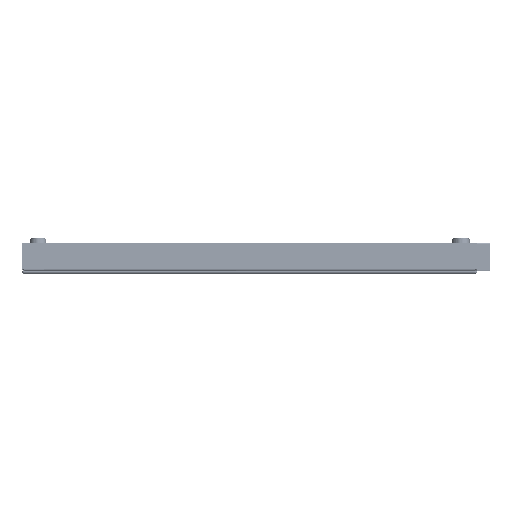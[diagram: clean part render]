
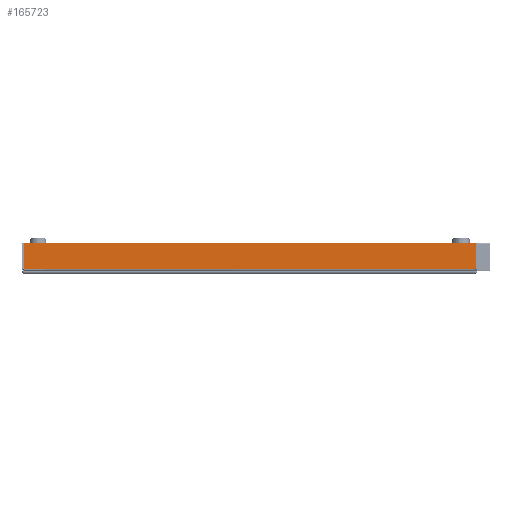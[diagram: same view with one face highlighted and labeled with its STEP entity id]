
A CAD part, left-side view. The second image highlights one B-rep face of the part: STEP entity #165723.
In plain terms, the highlighted planar face has unit normal (-1, 0, 0).
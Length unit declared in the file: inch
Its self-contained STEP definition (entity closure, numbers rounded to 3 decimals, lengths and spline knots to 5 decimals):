
#44864 = LINE ( 'NONE', #280374, #306609 ) ;
#92025 = DIRECTION ( 'NONE',  ( 0., 1., 0. ) ) ;
#152768 = EDGE_CURVE ( 'NONE', #467378, #166174, #44864, .T. ) ;
#165723 = ADVANCED_FACE ( 'NONE', ( #579345 ), #293257, .F. ) ;
#166174 = VERTEX_POINT ( 'NONE', #248034 ) ;
#189611 = DIRECTION ( 'NONE',  ( 0., -1., 0. ) ) ;
#200630 = ORIENTED_EDGE ( 'NONE', *, *, #152768, .F. ) ;
#221428 = CARTESIAN_POINT ( 'NONE',  ( -24., -23.80493, 0.263 ) ) ;
#225748 = VECTOR ( 'NONE', #340888, 39.37008 ) ;
#245222 = VERTEX_POINT ( 'NONE', #533685 ) ;
#248034 = CARTESIAN_POINT ( 'NONE',  ( -24., 23.80493, 0.263 ) ) ;
#261731 = CARTESIAN_POINT ( 'NONE',  ( -24., -23.80493, 0. ) ) ;
#278278 = ORIENTED_EDGE ( 'NONE', *, *, #483985, .T. ) ;
#280374 = CARTESIAN_POINT ( 'NONE',  ( -24., 24., 0.263 ) ) ;
#293257 = PLANE ( 'NONE',  #454586 ) ;
#296401 = CARTESIAN_POINT ( 'NONE',  ( -24., 0., 0. ) ) ;
#299906 = LINE ( 'NONE', #491631, #225748 ) ;
#306609 = VECTOR ( 'NONE', #92025, 39.37008 ) ;
#340888 = DIRECTION ( 'NONE',  ( 0., 0., 1. ) ) ;
#352836 = DIRECTION ( 'NONE',  ( 0., 0., 1. ) ) ;
#362170 = DIRECTION ( 'NONE',  ( 0., 0., -1. ) ) ;
#365844 = VECTOR ( 'NONE', #352836, 39.37008 ) ;
#381434 = DIRECTION ( 'NONE',  ( 1., 0., 0. ) ) ;
#402927 = ORIENTED_EDGE ( 'NONE', *, *, #541988, .F. ) ;
#404762 = VECTOR ( 'NONE', #189611, 39.37008 ) ;
#415152 = EDGE_LOOP ( 'NONE', ( #200630, #278278, #575730, #402927 ) ) ;
#423032 = VERTEX_POINT ( 'NONE', #607792 ) ;
#454586 = AXIS2_PLACEMENT_3D ( 'NONE', #296401, #381434, #362170 ) ;
#467378 = VERTEX_POINT ( 'NONE', #221428 ) ;
#483985 = EDGE_CURVE ( 'NONE', #467378, #245222, #503587, .T. ) ;
#491631 = CARTESIAN_POINT ( 'NONE',  ( -24., 23.80493, 0.188 ) ) ;
#503587 = LINE ( 'NONE', #261731, #365844 ) ;
#528786 = LINE ( 'NONE', #575864, #404762 ) ;
#533685 = CARTESIAN_POINT ( 'NONE',  ( -24., -23.80493, 3. ) ) ;
#541988 = EDGE_CURVE ( 'NONE', #166174, #423032, #299906, .T. ) ;
#575120 = EDGE_CURVE ( 'NONE', #423032, #245222, #528786, .T. ) ;
#575730 = ORIENTED_EDGE ( 'NONE', *, *, #575120, .F. ) ;
#575864 = CARTESIAN_POINT ( 'NONE',  ( -24., 24., 3. ) ) ;
#579345 = FACE_OUTER_BOUND ( 'NONE', #415152, .T. ) ;
#607792 = CARTESIAN_POINT ( 'NONE',  ( -24., 23.80493, 3. ) ) ;
